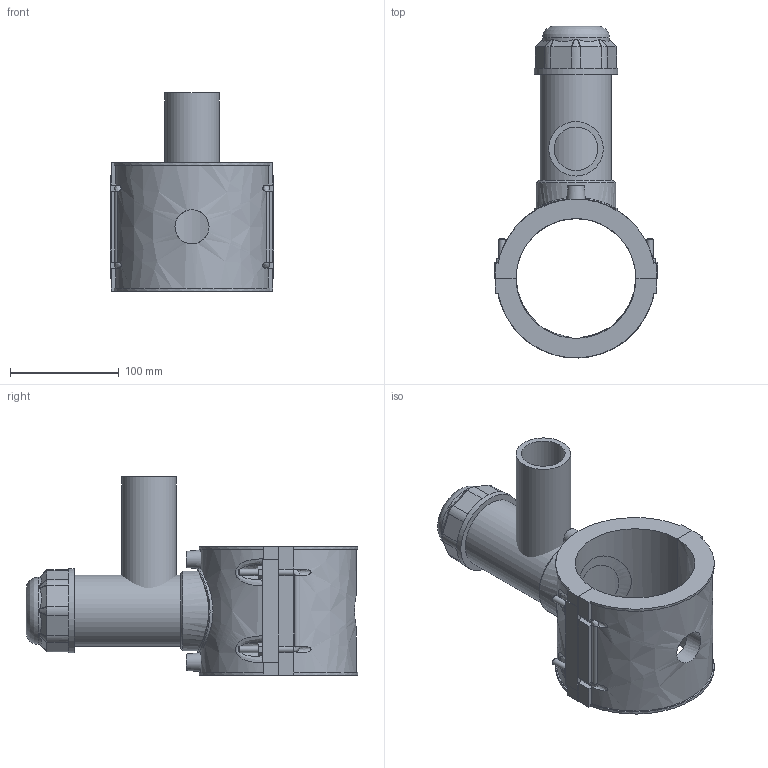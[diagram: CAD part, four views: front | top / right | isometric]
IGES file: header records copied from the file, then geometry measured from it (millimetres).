
Global section: file name: 4963P4110050; native system: Autodesk Inventor 2019; preprocessor: unknown; author: KIM; date: 20220317.112803; units: millimetre
Bounding box: 150 x 304.89 x 182 mm (x, y, z)
Volume: 1232303.8 mm3; surface area: 235560.4 mm2
Topology: 3 solids, 3 shells, 218 faces, 559 edges, 364 vertices
Faces by surface type: bspline 218
